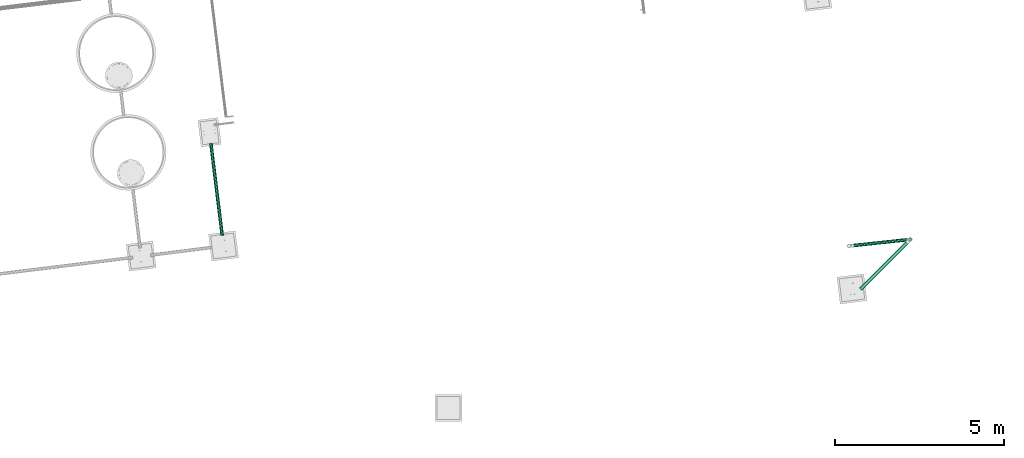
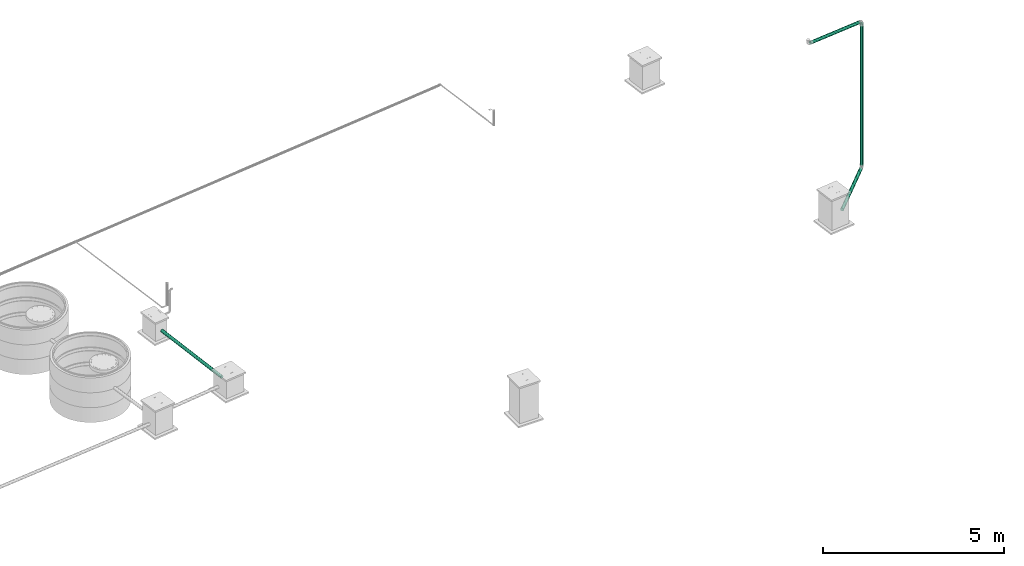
# One storey, part 7 of 97: 4 flow segments.
"""IFC2X3 building model written with IfcOpenShell, lengths in centimetres."""

from ifc_helpers import new_model, entity, si_unit, converted_unit, derived_unit, direction, frame, frame_2d, origin, origin_2d_with_axis, place, context, subcontext, project, spatial, circle, extrude, type_object, element, save


model = new_model("IFC2X3")

# Units and contexts
model_context = context("Model", 3, precision=0.001, world=origin(), true_north=direction((6.12303176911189e-17, 1.0)))
body_context = subcontext(model_context, "Body", "Model", "MODEL_VIEW")
ifc_project = project(units=[si_unit("LENGTHUNIT", "METRE", prefix="CENTI"), si_unit("AREAUNIT", "SQUARE_METRE"), si_unit("VOLUMEUNIT", "CUBIC_METRE"), converted_unit("PLANEANGLEUNIT", "DEGREE", entity("IfcRatioMeasure", 0.0174532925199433), si_unit("PLANEANGLEUNIT", "RADIAN"), dimensions=[0, 0, 0, 0, 0, 0, 0]), si_unit("MASSUNIT", "GRAM", prefix="KILO"), derived_unit("MASSDENSITYUNIT", [(si_unit("MASSUNIT", "GRAM", prefix="KILO"), 1), (si_unit("LENGTHUNIT", "METRE"), -3)]), derived_unit("MOMENTOFINERTIAUNIT", [(si_unit("LENGTHUNIT", "METRE"), 4)]), si_unit("TIMEUNIT", "SECOND"), si_unit("FREQUENCYUNIT", "HERTZ"), si_unit("THERMODYNAMICTEMPERATUREUNIT", "DEGREE_CELSIUS"), derived_unit("THERMALTRANSMITTANCEUNIT", [(si_unit("MASSUNIT", "GRAM", prefix="KILO"), 1), (si_unit("THERMODYNAMICTEMPERATUREUNIT", "KELVIN"), -1), (si_unit("TIMEUNIT", "SECOND"), -3)]), derived_unit("VOLUMETRICFLOWRATEUNIT", [(si_unit("LENGTHUNIT", "METRE"), 3), (si_unit("TIMEUNIT", "SECOND"), -1)]), si_unit("ELECTRICCURRENTUNIT", "AMPERE"), si_unit("ELECTRICVOLTAGEUNIT", "VOLT"), si_unit("POWERUNIT", "WATT"), si_unit("FORCEUNIT", "NEWTON", prefix="KILO"), si_unit("ILLUMINANCEUNIT", "LUX"), si_unit("LUMINOUSFLUXUNIT", "LUMEN"), si_unit("LUMINOUSINTENSITYUNIT", "CANDELA"), derived_unit("USERDEFINED", [(si_unit("MASSUNIT", "GRAM", prefix="KILO"), -1), (si_unit("LENGTHUNIT", "METRE"), -2), (si_unit("TIMEUNIT", "SECOND"), 3), (si_unit("LUMINOUSFLUXUNIT", "LUMEN"), 1)]), derived_unit("LINEARVELOCITYUNIT", [(si_unit("LENGTHUNIT", "METRE"), 1), (si_unit("TIMEUNIT", "SECOND"), -1)]), si_unit("PRESSUREUNIT", "PASCAL"), derived_unit("USERDEFINED", [(si_unit("LENGTHUNIT", "METRE"), -2), (si_unit("MASSUNIT", "GRAM", prefix="KILO"), 1), (si_unit("TIMEUNIT", "SECOND"), -2)]), derived_unit("LINEARFORCEUNIT", [(si_unit("MASSUNIT", "GRAM", prefix="KILO"), 1), (si_unit("LENGTHUNIT", "METRE"), 1), (si_unit("TIMEUNIT", "SECOND"), -2), (si_unit("LENGTHUNIT", "METRE"), -1)]), derived_unit("PLANARFORCEUNIT", [(si_unit("MASSUNIT", "GRAM", prefix="KILO"), 1), (si_unit("LENGTHUNIT", "METRE"), 1), (si_unit("TIMEUNIT", "SECOND"), -2), (si_unit("LENGTHUNIT", "METRE"), -2)])], contexts=[model_context])

# Site, building, storey
site_placement = place(None, origin())
site = spatial("IfcSite", under=ifc_project, at=site_placement, Name="Default", CompositionType="ELEMENT")
building_placement = place(site_placement, origin())
building = spatial("IfcBuilding", under=site, at=building_placement, Name="HIDROSSANITÁRIO", CompositionType="ELEMENT")
storey_placement = place(building_placement, frame((0.0, 0.0, -260.0)))
storey = spatial("IfcBuildingStorey", under=building, at=storey_placement, Name="TÉRREO-HID", CompositionType="ELEMENT", Elevation=-260.0)

# Flow segments
pipe_segment_type = type_object("IfcPipeSegmentType", Name="Tipos de tubos:Tubo - Esgoto - Série Normal", PredefinedType="NOTDEFINED")
flow_segment_1_placement = place(storey_placement, origin())
element("IfcFlowSegment", 1, at=flow_segment_1_placement, inside=storey, type_object=pipe_segment_type, Name="Tipos de tubos:Tubo - Esgoto - Série Normal", ObjectType="Tipos de tubos:Tubo - Esgoto - Série Normal", context=body_context, shape_type="SweptSolid", body=[
    extrude(circle(Radius=5.0, at=origin_2d_with_axis()), frame((786.323213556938, 2861.35402207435, -32.74), z_axis=(-0.122146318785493, 0.992461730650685, 0.00999950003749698), x_axis=(-0.992511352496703, -0.122152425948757, 0.0)), (0.0, 0.0, 1.0), 274.013699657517),
])
flow_segment_2_placement = place(storey_placement, origin())
element("IfcFlowSegment", 2, at=flow_segment_2_placement, inside=storey, type_object=pipe_segment_type, Name="Tipos de tubos:Tubo - Esgoto - Série Normal", ObjectType="Tipos de tubos:Tubo - Esgoto - Série Normal", context=body_context, shape_type="SweptSolid", body=[
    extrude(circle(Radius=5.0, at=origin_2d_with_axis()), frame((2816.53133674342, 2849.89579592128, -24.5216640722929), z_axis=(0.0, 0.0, 1.0), x_axis=(-1.0, 0.0, 0.0)), (0.0, 0.0, 1.0), 479.121664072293),
])
flow_segment_3_placement = place(storey_placement, origin())
element("IfcFlowSegment", 3, at=flow_segment_3_placement, inside=storey, type_object=pipe_segment_type, Name="Tipos de tubos:Tubo - Esgoto - Série Normal", ObjectType="Tipos de tubos:Tubo - Esgoto - Série Normal", context=body_context, shape_type="SweptSolid", body=[
    extrude(circle(Radius=5.0, at=frame_2d((-1.60799868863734e-17, 6.125315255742e-15), x_axis=(1.0, 0.0))), frame((2669.45680275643, 2702.82861574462, -32.4498200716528), z_axis=(0.707089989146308, 0.707052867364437, 0.00999950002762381), x_axis=(-0.707088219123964, 0.707125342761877, 0.0)), (0.0, 0.0, 1.0), 202.151740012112),
])
flow_segment_4_placement = place(storey_placement, origin())
element("IfcFlowSegment", 4, at=flow_segment_4_placement, inside=storey, type_object=pipe_segment_type, Name="Tipos de tubos:Tubo - Esgoto - Série Normal", ObjectType="Tipos de tubos:Tubo - Esgoto - Série Normal", context=body_context, shape_type="SweptSolid", body=[
    extrude(circle(Radius=5.0, at=origin_2d_with_axis()), frame((2641.43209743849, 2831.12895139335, 460.5), z_axis=(0.994305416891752, 0.106567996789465, 0.0), x_axis=(-0.106567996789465, 0.994305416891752, 0.0)), (0.0, 0.0, 1.0), 170.202067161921),
])

save(model, "model.ifc")
